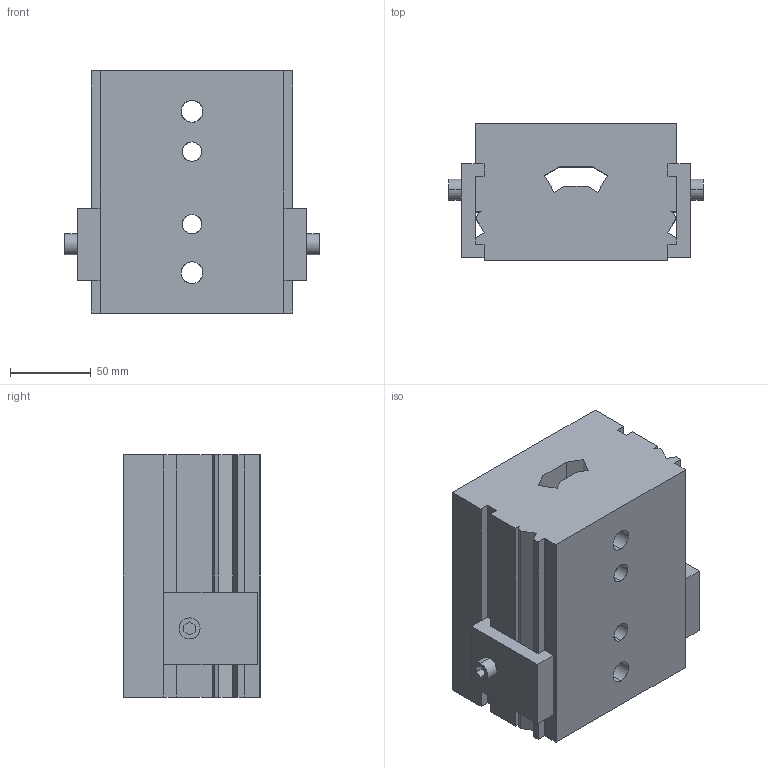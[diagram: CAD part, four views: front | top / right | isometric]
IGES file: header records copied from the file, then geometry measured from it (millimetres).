
Start section: START RECORD GO HERE.
Global section: file name: A945-01-1215-01-S-BC.igs; native system: DASSAULT SYSTEMES CATIA V5 R20 - www.3ds.com; preprocessor: CATIA Version 5 Release 20 ; author: Utente; organization: NB04-ASUS; date: 20200417.111831; units: millimetre
Bounding box: 158 x 85 x 150 mm (x, y, z)
Surface area: 119559.8 mm2 (no closed solid volume)
Topology: 0 solids, 0 shells, 100 faces, 564 edges, 564 vertices
Faces by surface type: extrusion 80, revolution 20
